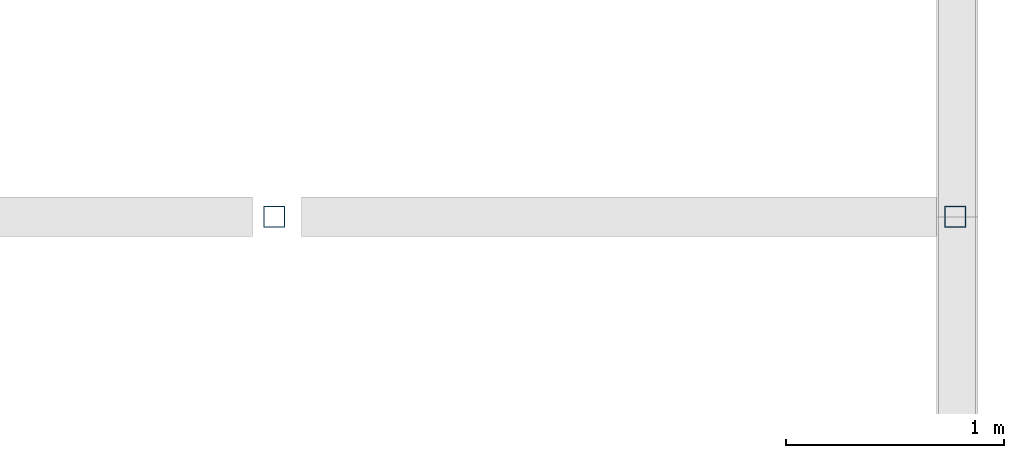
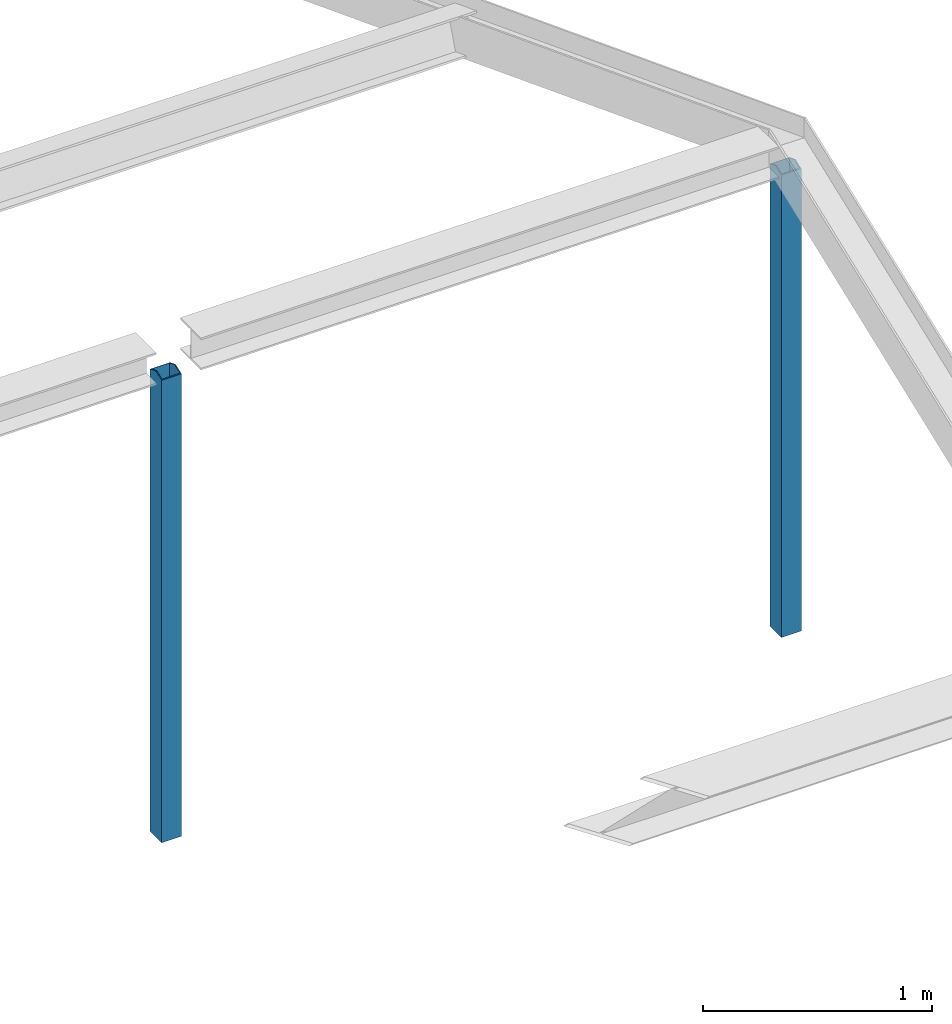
# One storey, part 9 of 10: 2 columns.
"""IFC2X3 building model written with IfcOpenShell, lengths in millimetres."""

import ifcopenshell
import ifcopenshell.guid

model = None  # the IFC model being written
_history = None  # IfcOwnerHistory: only IFC2X3 demands one
_inside = {}  # id of a spatial element -> (the spatial element, [elements in it])
_under = {}  # id of a project, library or spatial element -> (it, [spatial elements below it])
_declared = {}  # id of a project -> (the project, [libraries it declares])
_typed = {}  # id of a type object -> (the type object, [elements of that type])
_made_of = {}  # id of a material, layer set ... -> (it, [elements and type objects made of it])


def new_model(schema):
    """Start an empty IFC model of exactly this schema.

    Asked for "IFC4X3", IfcOpenShell would pick the latest addendum, in which some entities
    have other attributes; the version numbers below select the first issue.
    IFC2X3 requires an IfcOwnerHistory on every rooted entity: one is made here for all.
    """
    global model, _history
    if schema == "IFC4X3":
        model = ifcopenshell.file(schema_version=(4, 3, 0, 0))
    else:
        model = ifcopenshell.file(schema=schema)
    _inside.clear()
    _under.clear()
    _declared.clear()
    _typed.clear()
    _made_of.clear()
    _history = None
    if model.schema == "IFC2X3":
        org = make("IfcOrganization", Name="unknown")
        user = make(
            "IfcPersonAndOrganization",
            ThePerson=make("IfcPerson", FamilyName="unknown"),
            TheOrganization=org,
        )
        app = make(
            "IfcApplication",
            ApplicationDeveloper=org,
            Version="unknown",
            ApplicationFullName="unknown",
            ApplicationIdentifier="unknown",
        )
        _history = make(
            "IfcOwnerHistory",
            OwningUser=user,
            OwningApplication=app,
            ChangeAction="ADDED",
            CreationDate=0,
        )
    return model


def make(cls, **values):
    """One entity of the class cls with the attributes given. An attribute that is None is left unset."""
    return model.create_entity(
        cls, **{name: value for name, value in values.items() if value is not None}
    )


def entity(cls, *values):
    """Any entity or typed value of the class cls, its attributes in the order of the schema. None: left unset."""
    e = model.create_entity(cls)
    for i, value in enumerate(values):
        if value is not None:
            e[i] = value
    return e


def rooted(cls, **values):
    """An entity with a GlobalId (a new one), such as an element, a storey or a relation."""
    return make(cls, GlobalId=ifcopenshell.guid.new(), OwnerHistory=_history, **values)


def si_unit(unit_type, name, prefix=None):
    """IfcSIUnit, for example si_unit("LENGTHUNIT", "METRE", prefix="MILLI")."""
    return make("IfcSIUnit", UnitType=unit_type, Prefix=prefix, Name=name)


def converted_unit(unit_type, name, factor, base, dimensions=None, offset=None):
    """IfcConversionBasedUnit, such as the inch: factor (a typed value) times the base unit."""
    return make(
        "IfcConversionBasedUnit"
        if offset is None
        else "IfcConversionBasedUnitWithOffset",
        ConversionOffset=offset,
        Dimensions=None
        if dimensions is None
        else entity("IfcDimensionalExponents", *dimensions),
        UnitType=unit_type,
        Name=name,
        ConversionFactor=make(
            "IfcMeasureWithUnit", ValueComponent=factor, UnitComponent=base
        ),
    )


def derived_unit(unit_type, elements):
    """IfcDerivedUnit: a product of units, each with its exponent."""
    return make(
        "IfcDerivedUnit",
        Elements=[
            make("IfcDerivedUnitElement", Unit=unit, Exponent=power)
            for unit, power in elements
        ],
        UnitType=unit_type,
    )


def assignment(units):
    """IfcUnitAssignment: the units of a project."""
    return None if units is None else make("IfcUnitAssignment", Units=units)


def point(xyz):
    """IfcCartesianPoint."""
    return None if xyz is None else make("IfcCartesianPoint", Coordinates=xyz)


def direction(xyz):
    """IfcDirection."""
    return None if xyz is None else make("IfcDirection", DirectionRatios=xyz)


def frame(location, z_axis=None, x_axis=None):
    """IfcAxis2Placement3D, a coordinate frame: its origin and axes. An axis left out is left unset."""
    return make(
        "IfcAxis2Placement3D",
        Location=point(location),
        Axis=direction(z_axis),
        RefDirection=direction(x_axis),
    )


def origin():
    """The frame at (0, 0, 0) with its axes left unset."""
    return frame((0.0, 0.0, 0.0))


def place(relative_to, where):
    """IfcLocalPlacement: puts the frame where relative to a parent placement (None: the world)."""
    return make(
        "IfcLocalPlacement", PlacementRelTo=relative_to, RelativePlacement=where
    )


def context(
    kind, dimensions, precision=None, world=None, true_north=None, identifier=None
):
    """IfcGeometricRepresentationContext, for example the 3D "Model" context."""
    return make(
        "IfcGeometricRepresentationContext",
        ContextIdentifier=identifier,
        ContextType=kind,
        CoordinateSpaceDimension=dimensions,
        Precision=precision,
        WorldCoordinateSystem=world,
        TrueNorth=true_north,
    )


def subcontext(parent, identifier, kind, view, scale=None):
    """IfcGeometricRepresentationSubContext, for example "Body" below "Model"."""
    return make(
        "IfcGeometricRepresentationSubContext",
        ContextIdentifier=identifier,
        ContextType=kind,
        ParentContext=parent,
        TargetScale=scale,
        TargetView=view,
    )


def project(units=None, contexts=None):
    """IfcProject with its units and contexts."""
    return rooted(
        "IfcProject",
        Name="project",
        RepresentationContexts=contexts,
        UnitsInContext=assignment(units),
    )


def spatial(cls, under=None, at=None, **own):
    """A site, building, storey or space (cls), placed at a placement, below another one or the project."""
    s = rooted(cls, ObjectPlacement=at, **own)
    if under is not None:
        _under.setdefault(under.id(), (under, []))[1].append(s)
    return s


def faces_of(points, faces, orient=None, outer=None):
    """IfcFace entities. A face is a list of loops; a loop is a list of indices into points, from 0.

    orient and outer hold one flag for each loop. By default every Orientation is true, the
    first loop of a face is its IfcFaceOuterBound and the others are IfcFaceBound.
    """
    made = []
    for i, loops in enumerate(faces):
        bounds = []
        for j, loop in enumerate(loops):
            is_outer = j == 0 if outer is None else outer[i][j]
            bounds.append(
                make(
                    "IfcFaceOuterBound" if is_outer else "IfcFaceBound",
                    Bound=make("IfcPolyLoop", Polygon=[points[k] for k in loop]),
                    Orientation=True if orient is None else orient[i][j],
                )
            )
        made.append(make("IfcFace", Bounds=bounds))
    return made


def faceted_brep(points, faces, orient=None, outer=None, voids=None):
    """IfcFacetedBrep: a solid bounded by flat faces; with voids (closed shells), ...WithVoids."""
    shared = [point(p) for p in points]
    hull = make("IfcClosedShell", CfsFaces=faces_of(shared, faces, orient, outer))
    if voids is None:
        return make("IfcFacetedBrep", Outer=hull)
    return make(
        "IfcFacetedBrepWithVoids",
        Outer=hull,
        Voids=[
            make(cls, CfsFaces=faces_of(shared, fs, o, b)) for cls, fs, o, b in voids
        ],
    )


def shape(context_of_items, identifier, shape_type, items):
    """IfcShapeRepresentation: the items that make up one representation, for example the "Body"."""
    return make(
        "IfcShapeRepresentation",
        ContextOfItems=context_of_items,
        RepresentationIdentifier=identifier,
        RepresentationType=shape_type,
        Items=items,
    )


def source(mapping_origin, context_of_items, identifier, shape_type, items):
    """IfcRepresentationMap: a shape defined once, which mapped items show again and again."""
    return make(
        "IfcRepresentationMap",
        MappingOrigin=mapping_origin,
        MappedRepresentation=shape(context_of_items, identifier, shape_type, items),
    )


def transform(
    local_origin,
    x_axis=None,
    y_axis=None,
    z_axis=None,
    scale=None,
    scale2=None,
    scale3=None,
    uniform=True,
):
    """IfcCartesianTransformationOperator3D, or its non-uniform kind. x_axis, y_axis, z_axis: its Axis1, 2, 3."""
    if uniform:
        return make(
            "IfcCartesianTransformationOperator3D",
            Axis1=direction(x_axis),
            Axis2=direction(y_axis),
            LocalOrigin=point(local_origin),
            Scale=scale,
            Axis3=direction(z_axis),
        )
    return make(
        "IfcCartesianTransformationOperator3DnonUniform",
        Axis1=direction(x_axis),
        Axis2=direction(y_axis),
        LocalOrigin=point(local_origin),
        Scale=scale,
        Axis3=direction(z_axis),
        Scale2=scale2,
        Scale3=scale3,
    )


def mapped(mapping_source, mapping_target):
    """IfcMappedItem: shows the shape of a source again, moved by a transform."""
    return make(
        "IfcMappedItem", MappingSource=mapping_source, MappingTarget=mapping_target
    )


def material(Name=None, Category=None):
    """IfcMaterial."""
    return make("IfcMaterial", Name=Name, Category=Category)


def made_of(thing, what):
    """Note that an element or type object is made of a material, layer set ...; save() writes the relation."""
    if what is not None:
        _made_of.setdefault(what.id(), (what, []))[1].append(thing)
    return thing


def type_object(cls, material=None, **own):
    """A type object (cls), such as IfcWallType, which elements share."""
    return made_of(rooted(cls, **own), material)


def type_shapes(of_type, sources):
    """Give a type object the sources (RepresentationMaps) that its elements show as mapped items."""
    of_type.RepresentationMaps = sources


def element(
    cls,
    number,
    at=None,
    inside=None,
    cuts=None,
    type_object=None,
    material=None,
    context=None,
    identifier="Body",
    shape_type=None,
    held_by="IfcProductDefinitionShape",
    body=None,
    shapes=None,
    **own,
):
    """One element of the class cls, such as IfcWall. Its Tag is "e" and its number.

    at: its placement. inside: the storey or other place that contains it. cuts: it is an
    opening in that element (IfcRelVoidsElement). A single representation is given by context,
    identifier, shape_type and body (its items); several are given by shapes. held_by: the class
    of the entity that holds the representations. save() writes the other relations.
    """
    e = rooted(cls, Tag="e%d" % number, ObjectPlacement=at, **own)
    if body is not None:
        shapes = [shape(context, identifier, shape_type, body)]
    if shapes is not None:
        e.Representation = make(held_by, Representations=shapes)
    if inside is not None:
        _inside.setdefault(inside.id(), (inside, []))[1].append(e)
    if cuts is not None:
        rooted(
            "IfcRelVoidsElement", RelatingBuildingElement=cuts, RelatedOpeningElement=e
        )
    if type_object is not None:
        _typed.setdefault(type_object.id(), (type_object, []))[1].append(e)
    return made_of(e, material)


def aggregate(whole, parts):
    """IfcRelAggregates: a whole, such as a stair, and the parts it consists of."""
    return rooted("IfcRelAggregates", RelatingObject=whole, RelatedObjects=parts)


def save(model, path):
    """Write the relations noted so far, then the file.

    IfcRelAggregates (storeys below a building ...), IfcRelContainedInSpatialStructure (elements
    in a storey), IfcRelDefinesByType, IfcRelAssociatesMaterial and IfcRelDeclares: one each for
    every whole, place, type object, material and project.
    """
    for whole, parts in _under.values():
        aggregate(whole, parts)
    for where, things in _inside.values():
        rooted(
            "IfcRelContainedInSpatialStructure",
            RelatedElements=things,
            RelatingStructure=where,
        )
    for kind, things in _typed.values():
        rooted("IfcRelDefinesByType", RelatedObjects=things, RelatingType=kind)
    for what, things in _made_of.values():
        rooted("IfcRelAssociatesMaterial", RelatedObjects=things, RelatingMaterial=what)
    for by, libraries in _declared.values():
        rooted("IfcRelDeclares", RelatingContext=by, RelatedDefinitions=libraries)
    model.write(path)


model = new_model("IFC2X3")

# Units and contexts
model_context = context("Model", 3, precision=0.01, world=origin(), true_north=direction((6.123031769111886e-17, 1.0)))
body_context = subcontext(model_context, "Body", "Model", "MODEL_VIEW")
ifc_project = project(units=[si_unit("LENGTHUNIT", "METRE", prefix="MILLI"), si_unit("AREAUNIT", "SQUARE_METRE", prefix="MILLI"), si_unit("VOLUMEUNIT", "CUBIC_METRE"), converted_unit("PLANEANGLEUNIT", "DEGREE", entity("IfcPlaneAngleMeasure", 0.017453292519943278), si_unit("PLANEANGLEUNIT", "RADIAN"), dimensions=[0, 0, 0, 0, 0, 0, 0]), si_unit("MASSUNIT", "GRAM", prefix="KILO"), derived_unit("MASSDENSITYUNIT", [(si_unit("MASSUNIT", "GRAM", prefix="KILO"), 1), (si_unit("LENGTHUNIT", "METRE"), -3)]), derived_unit("IONCONCENTRATIONUNIT", [(si_unit("MASSUNIT", "GRAM", prefix="KILO"), 1), (si_unit("LENGTHUNIT", "METRE"), -3)]), derived_unit("MOMENTOFINERTIAUNIT", [(si_unit("LENGTHUNIT", "METRE"), 4)]), si_unit("TIMEUNIT", "SECOND"), si_unit("FREQUENCYUNIT", "HERTZ"), si_unit("THERMODYNAMICTEMPERATUREUNIT", "DEGREE_CELSIUS"), derived_unit("THERMALTRANSMITTANCEUNIT", [(si_unit("MASSUNIT", "GRAM", prefix="KILO"), 1), (si_unit("THERMODYNAMICTEMPERATUREUNIT", "KELVIN"), -1), (si_unit("TIMEUNIT", "SECOND"), -3)]), derived_unit("THERMALCONDUCTANCEUNIT", [(si_unit("MASSUNIT", "GRAM", prefix="KILO"), 1), (si_unit("THERMODYNAMICTEMPERATUREUNIT", "KELVIN"), -1), (si_unit("TIMEUNIT", "SECOND"), -3), (si_unit("LENGTHUNIT", "METRE"), 1)]), derived_unit("VOLUMETRICFLOWRATEUNIT", [(si_unit("LENGTHUNIT", "METRE", prefix="DECI"), 3), (si_unit("TIMEUNIT", "SECOND"), -1)]), derived_unit("MASSFLOWRATEUNIT", [(si_unit("MASSUNIT", "GRAM", prefix="KILO"), 1), (si_unit("TIMEUNIT", "SECOND"), -1)]), derived_unit("ROTATIONALFREQUENCYUNIT", [(si_unit("TIMEUNIT", "SECOND"), -1)]), si_unit("ELECTRICCURRENTUNIT", "AMPERE"), si_unit("ELECTRICVOLTAGEUNIT", "VOLT"), si_unit("POWERUNIT", "WATT"), si_unit("FORCEUNIT", "NEWTON", prefix="KILO"), si_unit("ILLUMINANCEUNIT", "LUX"), si_unit("LUMINOUSFLUXUNIT", "LUMEN"), si_unit("LUMINOUSINTENSITYUNIT", "CANDELA"), si_unit("ENERGYUNIT", "JOULE"), derived_unit("USERDEFINED", [(si_unit("MASSUNIT", "GRAM", prefix="KILO"), -1), (si_unit("LENGTHUNIT", "METRE"), -2), (si_unit("TIMEUNIT", "SECOND"), 3), (si_unit("LUMINOUSFLUXUNIT", "LUMEN"), 1)]), derived_unit("USERDEFINED", [(si_unit("MASSUNIT", "GRAM", prefix="KILO"), 1), (si_unit("TIMEUNIT", "SECOND"), -3), (si_unit("LENGTHUNIT", "METRE"), 3), (si_unit("ELECTRICCURRENTUNIT", "AMPERE"), -2)]), derived_unit("SOUNDPOWERUNIT", [(si_unit("MASSUNIT", "GRAM", prefix="KILO"), 1), (si_unit("TIMEUNIT", "SECOND"), -3), (si_unit("LENGTHUNIT", "METRE"), 2)]), derived_unit("SOUNDPRESSUREUNIT", [(si_unit("MASSUNIT", "GRAM", prefix="KILO"), 1), (si_unit("LENGTHUNIT", "METRE"), -1), (si_unit("TIMEUNIT", "SECOND"), -2)]), derived_unit("LINEARVELOCITYUNIT", [(si_unit("LENGTHUNIT", "METRE"), 1), (si_unit("TIMEUNIT", "SECOND"), -1)]), si_unit("PRESSUREUNIT", "PASCAL"), derived_unit("USERDEFINED", [(si_unit("MASSUNIT", "GRAM", prefix="KILO"), 1), (si_unit("LENGTHUNIT", "METRE"), -2), (si_unit("TIMEUNIT", "SECOND"), -2)]), derived_unit("LINEARFORCEUNIT", [(si_unit("MASSUNIT", "GRAM", prefix="KILO"), 1), (si_unit("TIMEUNIT", "SECOND"), -2)]), derived_unit("PLANARFORCEUNIT", [(si_unit("MASSUNIT", "GRAM", prefix="KILO"), 1), (si_unit("LENGTHUNIT", "METRE"), -1), (si_unit("TIMEUNIT", "SECOND"), -2)]), derived_unit("SPECIFICHEATCAPACITYUNIT", [(si_unit("THERMODYNAMICTEMPERATUREUNIT", "KELVIN"), -1), (si_unit("LENGTHUNIT", "METRE"), 2), (si_unit("TIMEUNIT", "SECOND"), -2)]), derived_unit("HEATFLUXDENSITYUNIT", [(si_unit("MASSUNIT", "GRAM", prefix="KILO"), 1), (si_unit("TIMEUNIT", "SECOND"), -3)]), derived_unit("HEATINGVALUEUNIT", [(si_unit("LENGTHUNIT", "METRE"), 2), (si_unit("TIMEUNIT", "SECOND"), -2)]), derived_unit("VAPORPERMEABILITYUNIT", [(si_unit("LENGTHUNIT", "METRE"), -1), (si_unit("TIMEUNIT", "SECOND"), 1)]), derived_unit("DYNAMICVISCOSITYUNIT", [(si_unit("MASSUNIT", "GRAM", prefix="KILO"), 1), (si_unit("TIMEUNIT", "SECOND"), -1), (si_unit("LENGTHUNIT", "METRE"), -1)]), derived_unit("THERMALEXPANSIONCOEFFICIENTUNIT", [(si_unit("THERMODYNAMICTEMPERATUREUNIT", "KELVIN"), -1)]), derived_unit("MODULUSOFELASTICITYUNIT", [(si_unit("MASSUNIT", "GRAM", prefix="KILO"), 1), (si_unit("LENGTHUNIT", "METRE"), -1), (si_unit("TIMEUNIT", "SECOND"), -2)]), derived_unit("ISOTHERMALMOISTURECAPACITYUNIT", [(si_unit("MASSUNIT", "GRAM", prefix="KILO"), -1), (si_unit("LENGTHUNIT", "METRE"), 3)]), derived_unit("MOISTUREDIFFUSIVITYUNIT", [(si_unit("TIMEUNIT", "SECOND"), -1), (si_unit("LENGTHUNIT", "METRE"), 2)]), derived_unit("MASSPERLENGTHUNIT", [(si_unit("MASSUNIT", "GRAM", prefix="KILO"), 1), (si_unit("LENGTHUNIT", "METRE"), -1)]), derived_unit("THERMALRESISTANCEUNIT", [(si_unit("MASSUNIT", "GRAM", prefix="KILO"), -1), (si_unit("TIMEUNIT", "SECOND"), 3), (si_unit("THERMODYNAMICTEMPERATUREUNIT", "KELVIN"), 1)]), derived_unit("ACCELERATIONUNIT", [(si_unit("LENGTHUNIT", "METRE"), 1), (si_unit("TIMEUNIT", "SECOND"), -2)]), derived_unit("ANGULARVELOCITYUNIT", [(si_unit("TIMEUNIT", "SECOND"), -1), (si_unit("PLANEANGLEUNIT", "RADIAN"), 1)]), derived_unit("LINEARSTIFFNESSUNIT", [(si_unit("MASSUNIT", "GRAM", prefix="KILO"), 1), (si_unit("TIMEUNIT", "SECOND"), -2)]), derived_unit("WARPINGCONSTANTUNIT", [(si_unit("LENGTHUNIT", "METRE"), 6)]), derived_unit("LINEARMOMENTUNIT", [(si_unit("MASSUNIT", "GRAM", prefix="KILO"), 1), (si_unit("LENGTHUNIT", "METRE"), 1), (si_unit("TIMEUNIT", "SECOND"), -2)]), derived_unit("TORQUEUNIT", [(si_unit("MASSUNIT", "GRAM", prefix="KILO"), 1), (si_unit("LENGTHUNIT", "METRE"), 2), (si_unit("TIMEUNIT", "SECOND"), -2)])], contexts=[model_context])

# Site, building, storey
site_placement = place(None, origin())
site = spatial("IfcSite", under=ifc_project, at=site_placement, Name="Default", CompositionType="ELEMENT")
building_placement = place(site_placement, origin())
building = spatial("IfcBuilding", under=site, at=building_placement, CompositionType="ELEMENT")
storey_placement = place(building_placement, frame((0.0, 0.0, 11700.0)))
storey = spatial("IfcBuildingStorey", under=building, at=storey_placement, Name="V4 BK metselwerk", CompositionType="ELEMENT", Elevation=11699.999999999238)

# Columns
ifc_material = material(Name="Metal - Steel - S275 J0H (standaard-kokers/buizen)")
column_type_1 = type_object("IfcColumnType", Name="btk_staal - Koker:K100x100x5.0", PredefinedType="COLUMN", material=ifc_material)
shared_shape_1 = source(origin(), body_context, "Body", "Brep", [
    faceted_brep([(30599.977194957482, 37544.38570506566, 10790.0), (30699.977194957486, 37544.38570506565, 10790.0), (30699.977194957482, 37544.38570506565, 13255.664934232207), (30599.977194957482, 37544.38570506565, 13255.664934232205), (30599.977194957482, 37644.38570506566, 10790.0), (30599.977194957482, 37594.351383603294, 13274.814563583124), (30599.977194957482, 37644.38570506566, 13255.640145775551), (30699.977194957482, 37644.38570506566, 10790.0), (30699.977194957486, 37644.38570506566, 13255.640145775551), (30604.977194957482, 37549.38570506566, 10790.0), (30604.977194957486, 37639.38570506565, 10790.0), (30604.977194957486, 37639.38570506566, 13257.556272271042), (30604.977194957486, 37594.351383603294, 13274.814563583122), (30604.977194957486, 37549.38570506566, 13257.581212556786), (30694.977194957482, 37549.38570506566, 10790.0), (30694.977194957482, 37549.38570506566, 13257.581212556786), (30694.977194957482, 37639.38570506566, 10790.0), (30694.977194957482, 37594.3513836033, 13274.81456358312), (30694.977194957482, 37639.38570506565, 13257.556272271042), (30699.977194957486, 37594.351383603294, 13274.814563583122)], [[[0, 1, 2, 3]], [[4, 0, 3, 5, 6]], [[7, 4, 6, 8]], [[9, 10, 11, 12, 13]], [[14, 9, 13, 15]], [[16, 14, 15, 17, 18]], [[7, 1, 0, 4], [16, 10, 9, 14]], [[1, 7, 8, 19, 2]], [[10, 16, 18, 11]], [[5, 12, 11, 18, 17, 19, 8, 6]], [[12, 5, 3, 2, 19, 17, 15, 13]]]),
])
type_shapes(column_type_1, [shared_shape_1])
column_1_placement = place(storey_placement, frame((0.0, 0.0, -11700.0)))
element("IfcColumn", 1, at=column_1_placement, inside=storey, type_object=column_type_1, material=ifc_material, Name="btk_staal - Koker:K100x100x5.0", ObjectType="btk_staal - Koker:K100x100x5.0", context=body_context, shape_type="MappedRepresentation", body=[
    mapped(shared_shape_1, transform((0.0, 0.0, 0.0), scale=1.0)),
])
column_type_2 = type_object("IfcColumnType", Name="btk_staal - Koker:K100x100x5.0", PredefinedType="COLUMN", material=ifc_material)
shared_shape_2 = source(origin(), body_context, "Body", "Brep", [
    faceted_brep([(27474.979520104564, 37544.385705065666, 10790.0), (27574.979520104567, 37544.38570506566, 10790.0), (27574.97952010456, 37544.38570506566, 13255.664934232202), (27474.979520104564, 37544.38570506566, 13255.664934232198), (27474.979520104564, 37644.385705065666, 10790.0), (27474.979520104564, 37594.351383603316, 13274.81456358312), (27474.979520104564, 37644.385705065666, 13255.640145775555), (27574.97952010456, 37644.385705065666, 10790.0), (27574.979520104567, 37644.385705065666, 13255.640145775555), (27479.97952010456, 37549.385705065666, 10790.0), (27479.979520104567, 37639.38570506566, 10790.0), (27479.979520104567, 37639.38570506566, 13257.556272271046), (27479.979520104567, 37594.351383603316, 13274.81456358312), (27479.979520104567, 37549.385705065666, 13257.581212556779), (27569.979520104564, 37549.385705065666, 10790.0), (27569.979520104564, 37549.385705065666, 13257.581212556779), (27569.979520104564, 37639.385705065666, 10790.0), (27569.979520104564, 37594.351383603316, 13274.81456358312), (27569.979520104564, 37639.38570506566, 13257.556272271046), (27574.979520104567, 37594.351383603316, 13274.81456358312)], [[[0, 1, 2, 3]], [[4, 0, 3, 5, 6]], [[7, 4, 6, 8]], [[9, 10, 11, 12, 13]], [[14, 9, 13, 15]], [[16, 14, 15, 17, 18]], [[7, 1, 0, 4], [16, 10, 9, 14]], [[1, 7, 8, 19, 2]], [[10, 16, 18, 11]], [[12, 5, 3, 2, 19, 17, 15, 13]], [[5, 12, 11, 18, 17, 19, 8, 6]]]),
])
type_shapes(column_type_2, [shared_shape_2])
column_2_placement = place(storey_placement, frame((0.0, 0.0, -11700.0)))
element("IfcColumn", 2, at=column_2_placement, inside=storey, type_object=column_type_2, material=ifc_material, Name="btk_staal - Koker:K100x100x5.0", ObjectType="btk_staal - Koker:K100x100x5.0", context=body_context, shape_type="MappedRepresentation", body=[
    mapped(shared_shape_2, transform((0.0, 0.0, 0.0), scale=1.0)),
])

save(model, "model.ifc")
